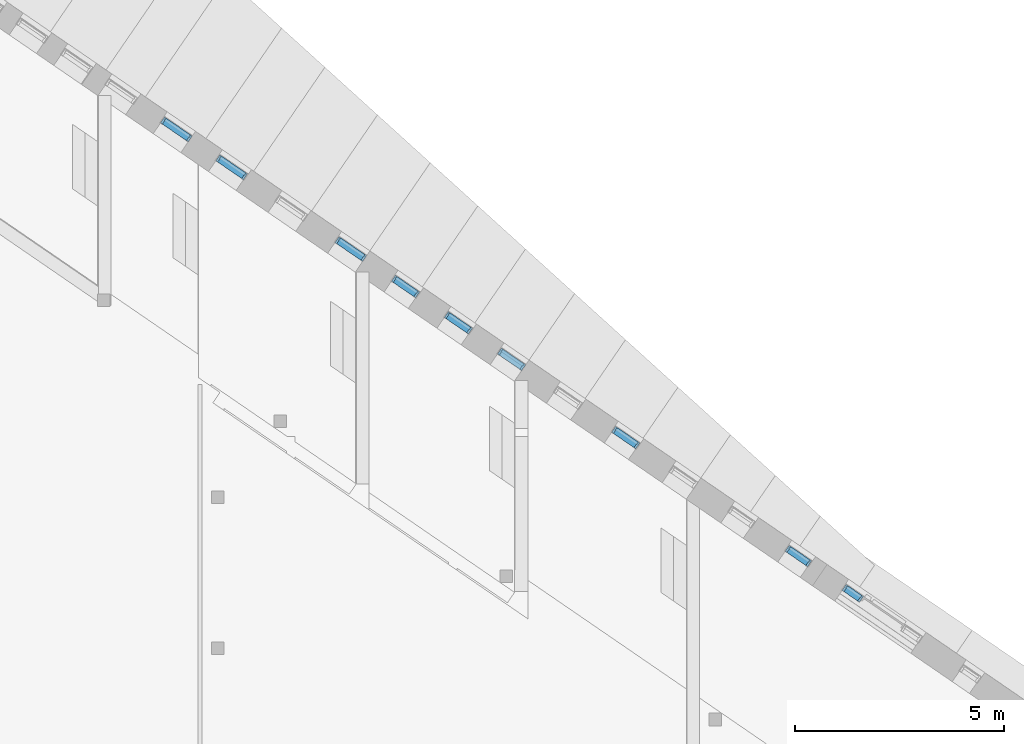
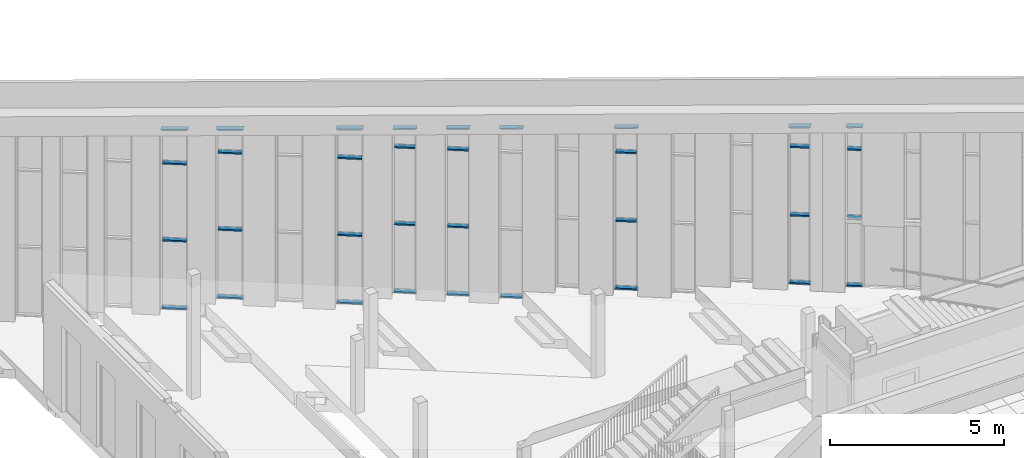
# One storey, part 20 of 79: 34 members, 9 elements without a shape of their own.
"""IFC2X3 building model written with IfcOpenShell, lengths in millimetres."""

from ifc_helpers import new_model, entity, si_unit, converted_unit, derived_unit, money_unit, direction, frame, origin_with_axes, place, context, subcontext, project, spatial, faceted_brep, source, transform, mapped, material, type_object, element, aggregate, save


model = new_model("IFC2X3")

# Units and contexts
model_context = context("Model", 3, precision=0.01, world=origin_with_axes(), true_north=direction((0.0, 1.0)))
body_context = subcontext(model_context, "Body", "Model", "MODEL_VIEW")
ifc_project = project(units=[si_unit("LENGTHUNIT", "METRE", prefix="MILLI"), si_unit("AREAUNIT", "SQUARE_METRE"), si_unit("VOLUMEUNIT", "CUBIC_METRE"), converted_unit("PLANEANGLEUNIT", "DEGREE", entity("IfcPlaneAngleMeasure", 0.0174532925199), si_unit("PLANEANGLEUNIT", "RADIAN"), dimensions=[0, 0, 0, 0, 0, 0, 0]), si_unit("SOLIDANGLEUNIT", "STERADIAN"), money_unit("EUR"), converted_unit("TIMEUNIT", "Year", entity("IfcTimeMeasure", 31556926.0), si_unit("TIMEUNIT", "SECOND"), dimensions=[0, 0, 1, 0, 0, 0, 0]), si_unit("MASSUNIT", "GRAM", prefix="KILO"), si_unit("THERMODYNAMICTEMPERATUREUNIT", "DEGREE_CELSIUS"), si_unit("LUMINOUSINTENSITYUNIT", "LUMEN"), si_unit("ENERGYUNIT", "JOULE", prefix="MEGA"), derived_unit("THERMALCONDUCTANCEUNIT", [(si_unit("POWERUNIT", "WATT"), 1), (si_unit("LENGTHUNIT", "METRE"), -1), (si_unit("THERMODYNAMICTEMPERATUREUNIT", "KELVIN"), -1)]), derived_unit("SPECIFICHEATCAPACITYUNIT", [(si_unit("ENERGYUNIT", "JOULE"), 1), (si_unit("MASSUNIT", "GRAM", prefix="KILO"), -1), (si_unit("THERMODYNAMICTEMPERATUREUNIT", "KELVIN"), -1)]), derived_unit("MASSDENSITYUNIT", [(si_unit("MASSUNIT", "GRAM", prefix="KILO"), 1), (si_unit("VOLUMEUNIT", "CUBIC_METRE"), -1)])], contexts=[model_context])

# Site, building, storey
site_placement = place(None, origin_with_axes())
site = spatial("IfcSite", under=ifc_project, at=site_placement, Name="L.Koidula tn 11b", CompositionType="ELEMENT")
building_placement = place(site_placement, origin_with_axes())
building = spatial("IfcBuilding", under=site, at=building_placement, Name="Rakvere Riigigümnaasium", CompositionType="ELEMENT")
storey_placement = place(building_placement, frame((0.0, 0.0, 3720.0), z_axis=(0.0, 0.0, 1.0), x_axis=(1.0, 0.0, 0.0)))
storey = spatial("IfcBuildingStorey", under=building, at=storey_placement, Name="2.korrus +3,72", CompositionType="ELEMENT", Elevation=3720.0)

# Curtain wall, members
curtain_wall_type = type_object("IfcCurtainWallType", Name="Curtain Wall Type", PredefinedType="NOTDEFINED")
curtain_wall_1_placement = place(storey_placement, frame((78143.5902424, 22881.4219802, 465.0), z_axis=(0.0, 0.0, 1.0), x_axis=(1.0, 0.0, 0.0)))
curtain_wall_1 = element("IfcCurtainWall", 1, at=curtain_wall_1_placement, inside=storey, type_object=curtain_wall_type, Name="KLF-06-06")
ifc_material = material(Name="Alumiiniumprofiil (RAL 7021)")
member_type_1 = type_object("IfcMemberType", Name="Transom Frame 50 x 170", PredefinedType="MULLION")
shared_shape_1 = source(origin_with_axes(), body_context, "Body", "Brep", [
    faceted_brep([(12.0, -26.0, 599.999961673), (12.0, 26.0, 599.999961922), (25.0, 26.0, 599.999961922), (25.0, 46.0, 599.999962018), (-25.0, 46.0, 599.999962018), (-25.0, 26.0, 599.999961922), (-12.0, 26.0, 599.999961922), (-12.0, -26.0, 599.999961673), (-25.0, -26.0, 599.999961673), (-25.0, -124.0, 599.999961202), (25.0, -124.0, 599.999961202), (25.0, -26.0, 599.999961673), (12.0, -26.0, 50.0), (12.0, 26.0, 50.0), (25.0, 26.0, 50.0), (25.0, 46.0, 50.0), (-25.0, 46.0, 50.0), (-25.0, 26.0, 50.0), (-12.0, 26.0, 50.0), (-12.0, -26.0, 50.0), (-25.0, -26.0, 50.0), (-25.0, -124.0, 50.0), (25.0, -124.0, 50.0), (25.0, -26.0, 50.0)], [[[0, 1, 2, 3, 4, 5, 6, 7, 8, 9, 10, 11]], [[0, 12, 13, 1]], [[1, 13, 14, 2]], [[14, 15, 3, 2]], [[4, 3, 15, 16]], [[17, 5, 4, 16]], [[5, 17, 18, 6]], [[7, 6, 18, 19]], [[8, 7, 19, 20]], [[8, 20, 21, 9]], [[10, 9, 21, 22]], [[11, 10, 22, 23]], [[11, 23, 12, 0]], [[13, 12, 23, 22, 21, 20, 19, 18, 17, 16, 15, 14]]]),
])
member_1_placement = place(curtain_wall_1_placement, frame((-268.01658635, 183.826429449, 4800.00006484), z_axis=(0.824666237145, -0.565619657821, 0.0), x_axis=(0.0, 0.0, 1.0)))
member_1 = element("IfcMember", 2, at=member_1_placement, type_object=member_type_1, material=ifc_material, Name="KLF-06-06-Profiilid", ObjectType="MULLION", context=body_context, shape_type="MappedRepresentation", body=[
    mapped(shared_shape_1, transform((0.0, 0.0, 0.0), x_axis=(-1.0, 0.0, 0.0), y_axis=(0.0, -1.0, 0.0), z_axis=(0.0, 0.0, 1.0))),
])
member_2_placement = place(curtain_wall_1_placement, frame((-268.01658635, 183.826429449, 2400.00006484), z_axis=(0.824666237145, -0.565619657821, 0.0), x_axis=(0.0, 0.0, 1.0)))
member_2 = element("IfcMember", 3, at=member_2_placement, type_object=member_type_1, material=ifc_material, Name="KLF-06-06-Profiilid", ObjectType="MULLION", context=body_context, shape_type="MappedRepresentation", body=[
    mapped(shared_shape_1, transform((0.0, 0.0, 0.0), x_axis=(-1.0, 0.0, 0.0), y_axis=(0.0, -1.0, 0.0), z_axis=(0.0, 0.0, 1.0))),
])

curtain_wall_2_placement = place(storey_placement, frame((68763.037451, 29315.3232528, -465.000107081), z_axis=(0.0, 0.0, 1.0), x_axis=(1.0, 0.0, 0.0)))
curtain_wall_2 = element("IfcCurtainWall", 4, at=curtain_wall_2_placement, inside=storey, type_object=curtain_wall_type, Name="KLF-06-13")
shared_shape_2 = source(origin_with_axes(), body_context, "Body", "Brep", [
    faceted_brep([(12.0, -26.0, 650.000041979), (12.0, 26.0, 650.000042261), (25.0, 26.0, 650.000042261), (25.0, 46.0, 650.00004237), (-25.0, 46.0, 650.00004237), (-25.0, 26.0, 650.000042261), (-12.0, 26.0, 650.000042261), (-12.0, -26.0, 650.000041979), (-25.0, -26.0, 650.000041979), (-25.0, -124.0, 650.000041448), (25.0, -124.0, 650.000041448), (25.0, -26.0, 650.000041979), (12.0, -26.0, 50.0), (12.0, 26.0, 50.0), (25.0, 26.0, 50.0), (25.0, 46.0, 50.0), (-25.0, 46.0, 50.0), (-25.0, 26.0, 50.0), (-12.0, 26.0, 50.0), (-12.0, -26.0, 50.0), (-25.0, -26.0, 50.0), (-25.0, -124.0, 50.0), (25.0, -124.0, 50.0), (25.0, -26.0, 50.0)], [[[0, 1, 2, 3, 4, 5, 6, 7, 8, 9, 10, 11]], [[0, 12, 13, 1]], [[1, 13, 14, 2]], [[14, 15, 3, 2]], [[4, 3, 15, 16]], [[17, 5, 4, 16]], [[5, 17, 18, 6]], [[7, 6, 18, 19]], [[8, 7, 19, 20]], [[8, 20, 21, 9]], [[10, 9, 21, 22]], [[11, 10, 22, 23]], [[11, 23, 12, 0]], [[13, 12, 23, 22, 21, 20, 19, 18, 17, 16, 15, 14]]]),
])
member_3_placement = place(curtain_wall_2_placement, frame((-288.633206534, 197.966896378, 5100.00017192), z_axis=(0.824666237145, -0.565619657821, 0.0), x_axis=(0.0, 0.0, 1.0)))
member_3 = element("IfcMember", 5, at=member_3_placement, type_object=member_type_1, material=ifc_material, Name="KLF-06-13-Profiilid", ObjectType="MULLION", context=body_context, shape_type="MappedRepresentation", body=[
    mapped(shared_shape_2, transform((0.0, 0.0, 0.0), x_axis=(-1.0, 0.0, 0.0), y_axis=(0.0, -1.0, 0.0), z_axis=(0.0, 0.0, 1.0))),
])
member_4_placement = place(curtain_wall_2_placement, frame((-288.633206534, 197.966896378, 2400.00017192), z_axis=(0.824666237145, -0.565619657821, 0.0), x_axis=(0.0, 0.0, 1.0)))
member_4 = element("IfcMember", 6, at=member_4_placement, type_object=member_type_1, material=ifc_material, Name="KLF-06-13-Profiilid", ObjectType="MULLION", context=body_context, shape_type="MappedRepresentation", body=[
    mapped(shared_shape_2, transform((0.0, 0.0, 0.0), x_axis=(-1.0, 0.0, 0.0), y_axis=(0.0, -1.0, 0.0), z_axis=(0.0, 0.0, 1.0))),
])

curtain_wall_3_placement = place(storey_placement, frame((70025.1098687, 28449.7063598, -465.0), z_axis=(0.0, 0.0, 1.0), x_axis=(1.0, 0.0, 0.0)))
curtain_wall_3 = element("IfcCurtainWall", 7, at=curtain_wall_3_placement, inside=storey, type_object=curtain_wall_type, Name="KLF-06-12")
member_5_placement = place(curtain_wall_3_placement, frame((-288.63312114, 197.966837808, 5100.00006484), z_axis=(0.824666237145, -0.565619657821, 0.0), x_axis=(0.0, 0.0, 1.0)))
member_5 = element("IfcMember", 8, at=member_5_placement, type_object=member_type_1, material=ifc_material, Name="KLF-06-12-Profiilid", ObjectType="MULLION", context=body_context, shape_type="MappedRepresentation", body=[
    mapped(shared_shape_2, transform((0.0, 0.0, 0.0), x_axis=(-1.0, 0.0, 0.0), y_axis=(0.0, -1.0, 0.0), z_axis=(0.0, 0.0, 1.0))),
])
member_6_placement = place(curtain_wall_3_placement, frame((-288.633193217, 197.966887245, 2400.00006484), z_axis=(0.824666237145, -0.565619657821, 0.0), x_axis=(0.0, 0.0, 1.0)))
member_6 = element("IfcMember", 9, at=member_6_placement, type_object=member_type_1, material=ifc_material, Name="KLF-06-12-Profiilid", ObjectType="MULLION", context=body_context, shape_type="MappedRepresentation", body=[
    mapped(shared_shape_2, transform((0.0, 0.0, 0.0), x_axis=(-1.0, 0.0, 0.0), y_axis=(0.0, -1.0, 0.0), z_axis=(0.0, 0.0, 1.0))),
])

curtain_wall_4_placement = place(storey_placement, frame((74020.6159263, 25709.2765329, 0.0), z_axis=(0.0, 0.0, 1.0), x_axis=(1.0, 0.0, 0.0)))
curtain_wall_4 = element("IfcCurtainWall", 10, at=curtain_wall_4_placement, inside=storey, type_object=curtain_wall_type, Name="KLF-06-09")
member_7_placement = place(curtain_wall_4_placement, frame((-288.633100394, 197.966823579, 4800.00006484), z_axis=(0.824666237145, -0.565619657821, 0.0), x_axis=(0.0, 0.0, 1.0)))
member_7 = element("IfcMember", 11, at=member_7_placement, type_object=member_type_1, material=ifc_material, Name="KLF-06-09-Profiilid", ObjectType="MULLION", context=body_context, shape_type="MappedRepresentation", body=[
    mapped(shared_shape_2, transform((0.0, 0.0, 0.0), x_axis=(-1.0, 0.0, 0.0), y_axis=(0.0, -1.0, 0.0), z_axis=(0.0, 0.0, 1.0))),
])
member_8_placement = place(curtain_wall_4_placement, frame((-288.633100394, 197.966823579, 2400.00006484), z_axis=(0.824666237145, -0.565619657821, 0.0), x_axis=(0.0, 0.0, 1.0)))
member_8 = element("IfcMember", 12, at=member_8_placement, type_object=member_type_1, material=ifc_material, Name="KLF-06-09-Profiilid", ObjectType="MULLION", context=body_context, shape_type="MappedRepresentation", body=[
    mapped(shared_shape_2, transform((0.0, 0.0, 0.0), x_axis=(-1.0, 0.0, 0.0), y_axis=(0.0, -1.0, 0.0), z_axis=(0.0, 0.0, 1.0))),
])

# Member
member_type_2 = type_object("IfcMemberType", Name="Boundary Frame 50 x 170", PredefinedType="MULLION")
shared_shape_3 = source(origin_with_axes(), body_context, "Body", "Brep", [
    faceted_brep([(-37.0, -26.0, 612.999970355), (-50.0, -26.0, 599.999970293), (-50.0, -124.0, 599.999970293), (0.0, -124.0, 649.999970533), (0.0, 46.0, 649.999970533), (-50.0, 46.0, 599.999970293), (-50.0, 26.0, 599.999970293), (-37.0, 26.0, 612.999970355), (-37.0, -26.0, 37.0), (-50.0, -26.0, 50.0), (-50.0, -124.0, 50.0), (0.0, -124.0, 0.0), (0.0, 46.0, 0.0), (-50.0, 46.0, 50.0), (-50.0, 26.0, 50.0), (-37.0, 26.0, 37.0)], [[[0, 1, 2, 3, 4, 5, 6, 7]], [[0, 8, 9, 1]], [[9, 10, 2, 1]], [[2, 10, 11, 3]], [[3, 11, 12, 4]], [[4, 12, 13, 5]], [[6, 5, 13, 14]], [[14, 15, 7, 6]], [[7, 15, 8, 0]], [[8, 15, 14, 13, 12, 11, 10, 9]]]),
])
member_9_placement = place(curtain_wall_1_placement, frame((-268.016653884, 183.826475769, 0.0), z_axis=(0.824666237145, -0.565619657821, 0.0), x_axis=(0.0, 0.0, 1.0)))
member_9 = element("IfcMember", 13, at=member_9_placement, type_object=member_type_2, material=ifc_material, Name="KLF-06-15-Profiilid", ObjectType="MULLION", context=body_context, shape_type="MappedRepresentation", body=[
    mapped(shared_shape_3, transform((0.0, 0.0, 0.0), x_axis=(-1.0, 0.0, 0.0), y_axis=(0.0, -1.0, 0.0), z_axis=(0.0, 0.0, 1.0))),
])

# Curtain wall, members
curtain_wall_5_placement = place(storey_placement, frame((63291.7064528, 33067.985779, -1395.00012232), z_axis=(0.0, 0.0, 1.0), x_axis=(1.0, 0.0, 0.0)))
curtain_wall_5 = element("IfcCurtainWall", 14, at=curtain_wall_5_placement, inside=storey, type_object=curtain_wall_type, Name="KLF-06-17")
shared_shape_4 = source(origin_with_axes(), body_context, "Body", "Brep", [
    faceted_brep([(12.0, -26.0, 750.000123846), (12.0, 26.0, 750.000123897), (25.0, 26.0, 750.000123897), (25.0, 46.0, 750.000123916), (-25.0, 46.0, 750.000123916), (-25.0, 26.0, 750.000123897), (-12.0, 26.0, 750.000123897), (-12.0, -26.0, 750.000123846), (-25.0, -26.0, 750.000123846), (-25.0, -124.0, 750.000123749), (25.0, -124.0, 750.000123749), (25.0, -26.0, 750.000123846), (12.0, -26.0, 50.0), (12.0, 26.0, 50.0), (25.0, 26.0, 50.0), (25.0, 46.0, 50.0), (-25.0, 46.0, 50.0), (-25.0, 26.0, 50.0), (-12.0, 26.0, 50.0), (-12.0, -26.0, 50.0), (-25.0, -26.0, 50.0), (-25.0, -124.0, 50.0), (25.0, -124.0, 50.0), (25.0, -26.0, 50.0)], [[[0, 1, 2, 3, 4, 5, 6, 7, 8, 9, 10, 11]], [[0, 12, 13, 1]], [[1, 13, 14, 2]], [[14, 15, 3, 2]], [[4, 3, 15, 16]], [[17, 5, 4, 16]], [[5, 17, 18, 6]], [[7, 6, 18, 19]], [[8, 7, 19, 20]], [[8, 20, 21, 9]], [[10, 9, 21, 22]], [[11, 10, 22, 23]], [[11, 23, 12, 0]], [[13, 12, 23, 22, 21, 20, 19, 18, 17, 16, 15, 14]]]),
])
member_10_placement = place(curtain_wall_5_placement, frame((-329.866454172, 226.247835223, 5100.00020418), z_axis=(0.824666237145, -0.565619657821, 0.0), x_axis=(0.0, 0.0, 1.0)))
member_10 = element("IfcMember", 15, at=member_10_placement, type_object=member_type_1, material=ifc_material, Name="KLF-06-17-Profiilid", ObjectType="MULLION", context=body_context, shape_type="MappedRepresentation", body=[
    mapped(shared_shape_4, transform((0.0, 0.0, 0.0), x_axis=(-1.0, 0.0, 0.0), y_axis=(0.0, -1.0, 0.0), z_axis=(0.0, 0.0, 1.0))),
])
member_11_placement = place(curtain_wall_5_placement, frame((-329.866454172, 226.247835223, 2400.00020418), z_axis=(0.824666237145, -0.565619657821, 0.0), x_axis=(0.0, 0.0, 1.0)))
member_11 = element("IfcMember", 16, at=member_11_placement, type_object=member_type_1, material=ifc_material, Name="KLF-06-17-Profiilid", ObjectType="MULLION", context=body_context, shape_type="MappedRepresentation", body=[
    mapped(shared_shape_4, transform((0.0, 0.0, 0.0), x_axis=(-1.0, 0.0, 0.0), y_axis=(0.0, -1.0, 0.0), z_axis=(0.0, 0.0, 1.0))),
])

curtain_wall_6_placement = place(storey_placement, frame((64611.1746594, 32162.9974944, -930.000096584), z_axis=(0.0, 0.0, 1.0), x_axis=(1.0, 0.0, 0.0)))
curtain_wall_6 = element("IfcCurtainWall", 17, at=curtain_wall_6_placement, inside=storey, type_object=curtain_wall_type, Name="KLF-06-16")
member_12_placement = place(curtain_wall_6_placement, frame((-329.866531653, 226.247888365, 5100.00012171), z_axis=(0.824666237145, -0.565619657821, 0.0), x_axis=(0.0, 0.0, 1.0)))
member_12 = element("IfcMember", 18, at=member_12_placement, type_object=member_type_1, material=ifc_material, Name="KLF-06-16-Profiilid", ObjectType="MULLION", context=body_context, shape_type="MappedRepresentation", body=[
    mapped(shared_shape_4, transform((0.0, 0.0, 0.0), x_axis=(-1.0, 0.0, 0.0), y_axis=(0.0, -1.0, 0.0), z_axis=(0.0, 0.0, 1.0))),
])
member_13_placement = place(curtain_wall_6_placement, frame((-329.866531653, 226.247888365, 2400.00012171), z_axis=(0.824666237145, -0.565619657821, 0.0), x_axis=(0.0, 0.0, 1.0)))
member_13 = element("IfcMember", 19, at=member_13_placement, type_object=member_type_1, material=ifc_material, Name="KLF-06-16-Profiilid", ObjectType="MULLION", context=body_context, shape_type="MappedRepresentation", body=[
    mapped(shared_shape_4, transform((0.0, 0.0, 0.0), x_axis=(-1.0, 0.0, 0.0), y_axis=(0.0, -1.0, 0.0), z_axis=(0.0, 0.0, 1.0))),
])

curtain_wall_7_placement = place(storey_placement, frame((67456.273164, 30211.6096842, -929.999974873), z_axis=(0.0, 0.0, 1.0), x_axis=(1.0, 0.0, 0.0)))
curtain_wall_7 = element("IfcCurtainWall", 20, at=curtain_wall_7_placement, inside=storey, type_object=curtain_wall_type, Name="KLF-06-14")
member_14_placement = place(curtain_wall_7_placement, frame((-329.866464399, 226.247842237, 5100.00006484), z_axis=(0.824666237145, -0.565619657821, 0.0), x_axis=(0.0, 0.0, 1.0)))
member_14 = element("IfcMember", 21, at=member_14_placement, type_object=member_type_1, material=ifc_material, Name="KLF-06-14-Profiilid", ObjectType="MULLION", context=body_context, shape_type="MappedRepresentation", body=[
    mapped(shared_shape_4, transform((0.0, 0.0, 0.0), x_axis=(-1.0, 0.0, 0.0), y_axis=(0.0, -1.0, 0.0), z_axis=(0.0, 0.0, 1.0))),
])
member_15_placement = place(curtain_wall_7_placement, frame((-329.866464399, 226.247842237, 2400.00006484), z_axis=(0.824666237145, -0.565619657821, 0.0), x_axis=(0.0, 0.0, 1.0)))
member_15 = element("IfcMember", 22, at=member_15_placement, type_object=member_type_1, material=ifc_material, Name="KLF-06-14-Profiilid", ObjectType="MULLION", context=body_context, shape_type="MappedRepresentation", body=[
    mapped(shared_shape_4, transform((0.0, 0.0, 0.0), x_axis=(-1.0, 0.0, 0.0), y_axis=(0.0, -1.0, 0.0), z_axis=(0.0, 0.0, 1.0))),
])

curtain_wall_8_placement = place(storey_placement, frame((79442.2672738, 21990.3699919, 464.999974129), z_axis=(0.0, 0.0, 1.0), x_axis=(1.0, 0.0, 0.0)))
curtain_wall_8 = element("IfcCurtainWall", 23, at=curtain_wall_8_placement, inside=storey, type_object=curtain_wall_type, Name="KLF-06-05")
shared_shape_5 = source(origin_with_axes(), body_context, "Body", "Brep", [
    faceted_brep([(12.0, -26.0, 449.999826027), (12.0, 26.0, 449.999829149), (25.0, 26.0, 449.999829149), (25.0, 46.0, 449.999830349), (-25.0, 46.0, 449.999830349), (-25.0, 26.0, 449.999829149), (-12.0, 26.0, 449.999829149), (-12.0, -26.0, 449.999826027), (-25.0, -26.0, 449.999826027), (-25.0, -124.0, 449.999820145), (25.0, -124.0, 449.999820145), (25.0, -26.0, 449.999826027), (12.0, -26.0, 50.0000065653), (12.0, 26.0, 49.9999934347), (25.0, 26.0, 49.9999934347), (25.0, 46.0, 49.9999883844), (-25.0, 46.0, 49.9999883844), (-25.0, 26.0, 49.9999934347), (-12.0, 26.0, 49.9999934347), (-12.0, -26.0, 50.0000065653), (-25.0, -26.0, 50.0000065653), (-25.0, -124.0, 50.0000313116), (25.0, -124.0, 50.0000313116), (25.0, -26.0, 50.0000065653)], [[[0, 1, 2, 3, 4, 5, 6, 7, 8, 9, 10, 11]], [[0, 12, 13, 1]], [[1, 13, 14, 2]], [[14, 15, 3, 2]], [[4, 3, 15, 16]], [[17, 5, 4, 16]], [[5, 17, 18, 6]], [[7, 6, 18, 19]], [[8, 7, 19, 20]], [[8, 20, 21, 9]], [[10, 9, 21, 22]], [[11, 10, 22, 23]], [[11, 23, 12, 0]], [[13, 12, 23, 22, 21, 20, 19, 18, 17, 16, 15, 14]]]),
])
member_16_placement = place(curtain_wall_8_placement, frame((-206.166423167, 141.404821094, 4800.00009071), z_axis=(0.824666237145, -0.565619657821, 0.0), x_axis=(0.0, 0.0, 1.0)))
member_16 = element("IfcMember", 24, at=member_16_placement, type_object=member_type_1, material=ifc_material, Name="KLF-06-05-Profiilid", ObjectType="MULLION", context=body_context, shape_type="MappedRepresentation", body=[
    mapped(shared_shape_5, transform((0.0, 0.0, 0.0), x_axis=(-1.0, 0.0, 0.0), y_axis=(0.0, -1.0, 0.0), z_axis=(0.0, 0.0, 1.0))),
])
member_17_placement = place(curtain_wall_8_placement, frame((-206.166423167, 141.404821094, 2400.00009071), z_axis=(0.824666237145, -0.565619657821, 0.0), x_axis=(0.0, 0.0, 1.0)))
member_17 = element("IfcMember", 25, at=member_17_placement, type_object=member_type_1, material=ifc_material, Name="KLF-06-05-Profiilid", ObjectType="MULLION", context=body_context, shape_type="MappedRepresentation", body=[
    mapped(shared_shape_5, transform((0.0, 0.0, 0.0), x_axis=(-1.0, 0.0, 0.0), y_axis=(0.0, -1.0, 0.0), z_axis=(0.0, 0.0, 1.0))),
])

# Member
shared_shape_6 = source(origin_with_axes(), body_context, "Body", "Brep", [
    faceted_brep([(-37.0, -26.0, 663.000011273), (-50.0, -26.0, 650.000011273), (-50.0, -124.0, 650.000011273), (0.0, -124.0, 700.000011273), (0.0, 46.0, 700.000011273), (-50.0, 46.0, 650.000011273), (-50.0, 26.0, 650.000011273), (-37.0, 26.0, 663.000011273), (-37.0, -26.0, 37.0000013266), (-50.0, -26.0, 50.0000017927), (-50.0, -124.0, 50.0000017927), (0.0, -124.0, 0.0), (0.0, 46.0, 0.0), (-50.0, 46.0, 50.0000017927), (-50.0, 26.0, 50.0000017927), (-37.0, 26.0, 37.0000013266)], [[[0, 1, 2, 3, 4, 5, 6, 7]], [[0, 8, 9, 1]], [[9, 10, 2, 1]], [[2, 10, 11, 3]], [[3, 11, 12, 4]], [[4, 12, 13, 5]], [[6, 5, 13, 14]], [[14, 15, 7, 6]], [[7, 15, 8, 0]], [[8, 15, 14, 13, 12, 11, 10, 9]]]),
])
member_18_placement = place(curtain_wall_2_placement, frame((-288.633277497, 197.96694505, 0.0), z_axis=(0.824666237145, -0.565619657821, 0.0), x_axis=(0.0, 0.0, 1.0)))
member_18 = element("IfcMember", 26, at=member_18_placement, type_object=member_type_2, material=ifc_material, Name="KLF-06-30-Profiilid", ObjectType="MULLION", context=body_context, shape_type="MappedRepresentation", body=[
    mapped(shared_shape_6, transform((0.0, 0.0, 0.0), x_axis=(-1.0, 0.0, 0.0), y_axis=(0.0, -1.0, 0.0), z_axis=(0.0, 0.0, 1.0))),
])

member_19_placement = place(curtain_wall_3_placement, frame((-288.633265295, 197.966936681, 0.0), z_axis=(0.824666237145, -0.565619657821, 0.0), x_axis=(0.0, 0.0, 1.0)))
member_19 = element("IfcMember", 27, at=member_19_placement, type_object=member_type_2, material=ifc_material, Name="KLF-06-46-Profiilid", ObjectType="MULLION", context=body_context, shape_type="MappedRepresentation", body=[
    mapped(shared_shape_6, transform((0.0, 0.0, 0.0), x_axis=(-1.0, 0.0, 0.0), y_axis=(0.0, -1.0, 0.0), z_axis=(0.0, 0.0, 1.0))),
])

# Curtain wall, member
curtain_wall_9_placement = place(storey_placement, frame((71295.0958138, 27578.652128, -465.0), z_axis=(0.0, 0.0, 1.0), x_axis=(1.0, 0.0, 0.0)))
curtain_wall_9 = element("IfcCurtainWall", 28, at=curtain_wall_9_placement, inside=storey, type_object=curtain_wall_type, Name="KLF-06-11")
member_20_placement = place(curtain_wall_9_placement, frame((-288.63318076, 197.9668787, 0.0), z_axis=(0.824666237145, -0.565619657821, 0.0), x_axis=(0.0, 0.0, 1.0)))
member_20 = element("IfcMember", 29, at=member_20_placement, type_object=member_type_2, material=ifc_material, Name="KLF-06-36-Profiilid", ObjectType="MULLION", context=body_context, shape_type="MappedRepresentation", body=[
    mapped(shared_shape_6, transform((0.0, 0.0, 0.0), x_axis=(-1.0, 0.0, 0.0), y_axis=(0.0, -1.0, 0.0), z_axis=(0.0, 0.0, 1.0))),
])

# Member
member_21_placement = place(curtain_wall_4_placement, frame((-288.633170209, 197.966871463, 0.0), z_axis=(0.824666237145, -0.565619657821, 0.0), x_axis=(0.0, 0.0, 1.0)))
member_21 = element("IfcMember", 30, at=member_21_placement, type_object=member_type_2, material=ifc_material, Name="KLF-06-18-Profiilid", ObjectType="MULLION", context=body_context, shape_type="MappedRepresentation", body=[
    mapped(shared_shape_6, transform((0.0, 0.0, 0.0), x_axis=(-1.0, 0.0, 0.0), y_axis=(0.0, -1.0, 0.0), z_axis=(0.0, 0.0, 1.0))),
])

shared_shape_7 = source(origin_with_axes(), body_context, "Body", "Brep", [
    faceted_brep([(-37.0, -26.0, 763.000114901), (-50.0, -26.0, 750.000115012), (-50.0, -124.0, 750.000115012), (0.0, -124.0, 800.000114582), (0.0, 46.0, 800.000114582), (-50.0, 46.0, 750.000115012), (-50.0, 26.0, 750.000115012), (-37.0, 26.0, 763.000114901), (-37.0, -26.0, 37.0), (-50.0, -26.0, 50.0), (-50.0, -124.0, 50.0), (0.0, -124.0, 0.0), (0.0, 46.0, 0.0), (-50.0, 46.0, 50.0), (-50.0, 26.0, 50.0), (-37.0, 26.0, 37.0)], [[[0, 1, 2, 3, 4, 5, 6, 7]], [[0, 8, 9, 1]], [[9, 10, 2, 1]], [[2, 10, 11, 3]], [[3, 11, 12, 4]], [[4, 12, 13, 5]], [[6, 5, 13, 14]], [[14, 15, 7, 6]], [[7, 15, 8, 0]], [[8, 15, 14, 13, 12, 11, 10, 9]]]),
])
member_22_placement = place(curtain_wall_5_placement, frame((-329.866454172, 226.247835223, 0.0), z_axis=(0.824666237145, -0.565619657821, 0.0), x_axis=(0.0, 0.0, 1.0)))
member_22 = element("IfcMember", 31, at=member_22_placement, type_object=member_type_2, material=ifc_material, Name="KLF-06-34-Profiilid", ObjectType="MULLION", context=body_context, shape_type="MappedRepresentation", body=[
    mapped(shared_shape_7, transform((0.0, 0.0, 0.0), x_axis=(-1.0, 0.0, 0.0), y_axis=(0.0, -1.0, 0.0), z_axis=(0.0, 0.0, 1.0))),
])

member_23_placement = place(curtain_wall_6_placement, frame((-329.866531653, 226.247888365, 0.0), z_axis=(0.824666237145, -0.565619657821, 0.0), x_axis=(0.0, 0.0, 1.0)))
member_23 = element("IfcMember", 32, at=member_23_placement, type_object=member_type_2, material=ifc_material, Name="KLF-06-33-Profiilid", ObjectType="MULLION", context=body_context, shape_type="MappedRepresentation", body=[
    mapped(shared_shape_7, transform((0.0, 0.0, 0.0), x_axis=(-1.0, 0.0, 0.0), y_axis=(0.0, -1.0, 0.0), z_axis=(0.0, 0.0, 1.0))),
])

member_24_placement = place(curtain_wall_7_placement, frame((-329.866464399, 226.247842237, 0.0), z_axis=(0.824666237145, -0.565619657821, 0.0), x_axis=(0.0, 0.0, 1.0)))
member_24 = element("IfcMember", 33, at=member_24_placement, type_object=member_type_2, material=ifc_material, Name="KLF-06-40-Profiilid", ObjectType="MULLION", context=body_context, shape_type="MappedRepresentation", body=[
    mapped(shared_shape_7, transform((0.0, 0.0, 0.0), x_axis=(-1.0, 0.0, 0.0), y_axis=(0.0, -1.0, 0.0), z_axis=(0.0, 0.0, 1.0))),
])

shared_shape_8 = source(origin_with_axes(), body_context, "Body", "Brep", [
    faceted_brep([(-37.0, -26.0, 666.369227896), (-50.0, -26.0, 654.118960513), (-50.0, -124.0, 654.118960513), (0.0, -124.0, 701.235373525), (0.0, 46.0, 701.235373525), (-50.0, 46.0, 654.118960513), (-50.0, 26.0, 654.118960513), (-37.0, 26.0, 666.369227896), (-37.0, -26.0, 39.2644477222), (-50.0, -26.0, 53.0600644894), (-50.0, -124.0, 53.0600644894), (0.0, -124.0, 0.0), (0.0, 46.0, 0.0), (-50.0, 46.0, 53.0600644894), (-50.0, 26.0, 53.0600644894), (-37.0, 26.0, 39.2644477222)], [[[0, 1, 2, 3, 4, 5, 6, 7]], [[0, 8, 9, 1]], [[9, 10, 2, 1]], [[2, 10, 11, 3]], [[3, 11, 12, 4]], [[4, 12, 13, 5]], [[6, 5, 13, 14]], [[14, 15, 7, 6]], [[7, 15, 8, 0]], [[8, 15, 14, 13, 12, 11, 10, 9]]]),
])
member_25_placement = place(curtain_wall_2_placement, frame((288.633197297, -197.966890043, 5792.45374787), z_axis=(-0.823213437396, 0.564623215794, -0.0593317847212), x_axis=(0.0489289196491, -0.0335592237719, -0.998238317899)))
member_25 = element("IfcMember", 34, at=member_25_placement, type_object=member_type_2, material=ifc_material, Name="KLF-06-34-Profiilid", ObjectType="MULLION", context=body_context, shape_type="MappedRepresentation", body=[
    mapped(shared_shape_8, transform((0.0, 0.0, 0.0), x_axis=(-1.0, 0.0, 0.0), y_axis=(0.0, -1.0, 0.0), z_axis=(0.0, 0.0, 1.0))),
])

aggregate(curtain_wall_2, [member_3, member_4, member_18, member_25])

member_26_placement = place(curtain_wall_3_placement, frame((288.633134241, -197.966846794, 5883.4150748), z_axis=(-0.823213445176, 0.56462322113, -0.0593316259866), x_axis=(0.048928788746, -0.0335591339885, -0.998238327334)))
member_26 = element("IfcMember", 35, at=member_26_placement, type_object=member_type_2, material=ifc_material, Name="KLF-06-50-Profiilid", ObjectType="MULLION", context=body_context, shape_type="MappedRepresentation", body=[
    mapped(shared_shape_8, transform((0.0, 0.0, 0.0), x_axis=(-1.0, 0.0, 0.0), y_axis=(0.0, -1.0, 0.0), z_axis=(0.0, 0.0, 1.0))),
])

aggregate(curtain_wall_3, [member_5, member_6, member_19, member_26])

member_27_placement = place(curtain_wall_9_placement, frame((288.633097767, -197.966821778, 5974.94737027), z_axis=(-0.823213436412, 0.564623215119, -0.0593318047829), x_axis=(0.0489289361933, -0.0335592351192, -0.998238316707)))
member_27 = element("IfcMember", 36, at=member_27_placement, type_object=member_type_2, material=ifc_material, Name="KLF-06-40-Profiilid", ObjectType="MULLION", context=body_context, shape_type="MappedRepresentation", body=[
    mapped(shared_shape_8, transform((0.0, 0.0, 0.0), x_axis=(-1.0, 0.0, 0.0), y_axis=(0.0, -1.0, 0.0), z_axis=(0.0, 0.0, 1.0))),
])

aggregate(curtain_wall_9, [member_20, member_27])

member_28_placement = place(curtain_wall_4_placement, frame((288.63308418, -197.966812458, 5706.38504872), z_axis=(-0.823213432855, 0.564623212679, -0.0593318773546), x_axis=(0.0489289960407, -0.0335592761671, -0.998238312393)))
member_28 = element("IfcMember", 37, at=member_28_placement, type_object=member_type_2, material=ifc_material, Name="KLF-06-22-Profiilid", ObjectType="MULLION", context=body_context, shape_type="MappedRepresentation", body=[
    mapped(shared_shape_8, transform((0.0, 0.0, 0.0), x_axis=(-1.0, 0.0, 0.0), y_axis=(0.0, -1.0, 0.0), z_axis=(0.0, 0.0, 1.0))),
])

aggregate(curtain_wall_4, [member_7, member_8, member_21, member_28])

shared_shape_9 = source(origin_with_axes(), body_context, "Body", "Brep", [
    faceted_brep([(-37.0, -26.0, 462.99968442), (-50.0, -26.0, 449.999684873), (-50.0, -124.0, 449.999684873), (0.0, -124.0, 499.999683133), (0.0, 46.0, 499.999683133), (-50.0, 46.0, 449.999684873), (-50.0, 26.0, 449.999684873), (-37.0, 26.0, 462.99968442), (-37.0, -26.0, 37.0000012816), (-50.0, -26.0, 50.0000017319), (-50.0, -124.0, 50.0000017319), (0.0, -124.0, 0.0), (0.0, 46.0, 0.0), (-50.0, 46.0, 50.0000017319), (-50.0, 26.0, 50.0000017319), (-37.0, 26.0, 37.0000012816)], [[[0, 1, 2, 3, 4, 5, 6, 7]], [[0, 8, 9, 1]], [[9, 10, 2, 1]], [[2, 10, 11, 3]], [[3, 11, 12, 4]], [[4, 12, 13, 5]], [[6, 5, 13, 14]], [[14, 15, 7, 6]], [[7, 15, 8, 0]], [[8, 15, 14, 13, 12, 11, 10, 9]]]),
])
member_29_placement = place(curtain_wall_8_placement, frame((-206.166491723, 141.404868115, 0.0), z_axis=(0.824666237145, -0.565619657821, 0.0), x_axis=(0.0, 0.0, 1.0)))
member_29 = element("IfcMember", 38, at=member_29_placement, type_object=member_type_2, material=ifc_material, Name="KLF-06-14-Profiilid", ObjectType="MULLION", context=body_context, shape_type="MappedRepresentation", body=[
    mapped(shared_shape_9, transform((0.0, 0.0, 0.0), x_axis=(-1.0, 0.0, 0.0), y_axis=(0.0, -1.0, 0.0), z_axis=(0.0, 0.0, 1.0))),
])

shared_shape_10 = source(origin_with_axes(), body_context, "Body", "Brep", [
    faceted_brep([(-37.0, -26.0, 466.016149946), (-50.0, -26.0, 453.765878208), (-50.0, -124.0, 453.765878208), (0.0, -124.0, 500.882307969), (0.0, 46.0, 500.882307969), (-50.0, 46.0, 453.765878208), (-50.0, 26.0, 453.765878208), (-37.0, 26.0, 466.016149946), (-37.0, -26.0, 39.2644396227), (-50.0, -26.0, 53.0600535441), (-50.0, -124.0, 53.0600535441), (0.0, -124.0, 0.0), (0.0, 46.0, 0.0), (-50.0, 46.0, 53.0600535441), (-50.0, 26.0, 53.0600535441), (-37.0, 26.0, 39.2644396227)], [[[0, 1, 2, 3, 4, 5, 6, 7]], [[0, 8, 9, 1]], [[9, 10, 2, 1]], [[2, 10, 11, 3]], [[3, 11, 12, 4]], [[4, 12, 13, 5]], [[6, 5, 13, 14]], [[14, 15, 7, 6]], [[7, 15, 8, 0]], [[8, 15, 14, 13, 12, 11, 10, 9]]]),
])
member_30_placement = place(curtain_wall_8_placement, frame((206.166458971, -141.404845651, 5626.20898966), z_axis=(-0.823213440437, 0.56462321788, -0.0593317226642), x_axis=(0.0489288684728, -0.0335591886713, -0.998238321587)))
member_30 = element("IfcMember", 39, at=member_30_placement, type_object=member_type_2, material=ifc_material, Name="KLF-06-18-Profiilid", ObjectType="MULLION", context=body_context, shape_type="MappedRepresentation", body=[
    mapped(shared_shape_10, transform((0.0, 0.0, 0.0), x_axis=(-1.0, 0.0, 0.0), y_axis=(0.0, -1.0, 0.0), z_axis=(0.0, 0.0, 1.0))),
])

aggregate(curtain_wall_8, [member_16, member_17, member_29, member_30])

shared_shape_11 = source(origin_with_axes(), body_context, "Body", "Brep", [
    faceted_brep([(-37.0, -26.0, 766.545635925), (-50.0, -26.0, 754.295366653), (-50.0, -124.0, 754.295366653), (0.0, -124.0, 801.41178693), (0.0, 46.0, 801.41178693), (-50.0, 46.0, 754.295366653), (-50.0, 26.0, 754.295366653), (-37.0, 26.0, 766.545635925), (-37.0, -26.0, 39.2644441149), (-50.0, -26.0, 53.0600596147), (-50.0, -124.0, 53.0600596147), (0.0, -124.0, 0.0), (0.0, 46.0, 0.0), (-50.0, 46.0, 53.0600596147), (-50.0, 26.0, 53.0600596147), (-37.0, 26.0, 39.2644441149)], [[[0, 1, 2, 3, 4, 5, 6, 7]], [[0, 8, 9, 1]], [[9, 10, 2, 1]], [[2, 10, 11, 3]], [[3, 11, 12, 4]], [[4, 12, 13, 5]], [[6, 5, 13, 14]], [[14, 15, 7, 6]], [[7, 15, 8, 0]], [[8, 15, 14, 13, 12, 11, 10, 9]]]),
])
member_31_placement = place(curtain_wall_5_placement, frame((329.86646743, -226.247844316, 6331.08803502), z_axis=(-0.823213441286, 0.564623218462, -0.0593317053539), x_axis=(0.0489288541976, -0.0335591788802, -0.998238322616)))
member_31 = element("IfcMember", 40, at=member_31_placement, type_object=member_type_2, material=ifc_material, Name="KLF-06-38-Profiilid", ObjectType="MULLION", context=body_context, shape_type="MappedRepresentation", body=[
    mapped(shared_shape_11, transform((0.0, 0.0, 0.0), x_axis=(-1.0, 0.0, 0.0), y_axis=(0.0, -1.0, 0.0), z_axis=(0.0, 0.0, 1.0))),
])

aggregate(curtain_wall_5, [member_10, member_11, member_22, member_31])

member_32_placement = place(curtain_wall_6_placement, frame((329.866522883, -226.24788235, 5961.18653588), z_axis=(-0.823213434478, 0.564623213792, -0.0593318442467), x_axis=(0.0489289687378, -0.0335592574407, -0.998238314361)))
member_32 = element("IfcMember", 41, at=member_32_placement, type_object=member_type_2, material=ifc_material, Name="KLF-06-37-Profiilid", ObjectType="MULLION", context=body_context, shape_type="MappedRepresentation", body=[
    mapped(shared_shape_11, transform((0.0, 0.0, 0.0), x_axis=(-1.0, 0.0, 0.0), y_axis=(0.0, -1.0, 0.0), z_axis=(0.0, 0.0, 1.0))),
])

aggregate(curtain_wall_6, [member_12, member_13, member_23, member_32])

member_33_placement = place(curtain_wall_7_placement, frame((329.86647408, -226.247848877, 6166.24231213), z_axis=(-0.823213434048, 0.564623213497, -0.0593318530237), x_axis=(0.0489289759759, -0.0335592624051, -0.998238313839)))
member_33 = element("IfcMember", 42, at=member_33_placement, type_object=member_type_2, material=ifc_material, Name="KLF-06-44-Profiilid", ObjectType="MULLION", context=body_context, shape_type="MappedRepresentation", body=[
    mapped(shared_shape_11, transform((0.0, 0.0, 0.0), x_axis=(-1.0, 0.0, 0.0), y_axis=(0.0, -1.0, 0.0), z_axis=(0.0, 0.0, 1.0))),
])

aggregate(curtain_wall_7, [member_14, member_24, member_15, member_33])

shared_shape_12 = source(origin_with_axes(), body_context, "Body", "Brep", [
    faceted_brep([(-37.0, -26.0, 616.280956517), (-50.0, -26.0, 604.030699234), (-50.0, -124.0, 604.030699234), (0.0, -124.0, 651.147073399), (0.0, 46.0, 651.147073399), (-50.0, 46.0, 604.030699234), (-50.0, 26.0, 604.030699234), (-37.0, 26.0, 616.280956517), (-37.0, -26.0, 39.2644517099), (-50.0, -26.0, 53.0600698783), (-50.0, -124.0, 53.0600698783), (0.0, -124.0, 0.0), (0.0, 46.0, 0.0), (-50.0, 46.0, 53.0600698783), (-50.0, 26.0, 53.0600698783), (-37.0, 26.0, 39.2644517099)], [[[0, 1, 2, 3, 4, 5, 6, 7]], [[0, 8, 9, 1]], [[9, 10, 2, 1]], [[2, 10, 11, 3]], [[3, 11, 12, 4]], [[4, 12, 13, 5]], [[6, 5, 13, 14]], [[14, 15, 7, 6]], [[7, 15, 8, 0]], [[8, 15, 14, 13, 12, 11, 10, 9]]]),
])
member_34_placement = place(curtain_wall_1_placement, frame((268.016718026, -183.826519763, 5537.05594052), z_axis=(-0.823213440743, 0.564623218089, -0.0593317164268), x_axis=(0.048928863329, -0.0335591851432, -0.998238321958)))
member_34 = element("IfcMember", 43, at=member_34_placement, type_object=member_type_2, material=ifc_material, Name="KLF-06-19-Profiilid", ObjectType="MULLION", context=body_context, shape_type="MappedRepresentation", body=[
    mapped(shared_shape_12, transform((0.0, 0.0, 0.0), x_axis=(-1.0, 0.0, 0.0), y_axis=(0.0, -1.0, 0.0), z_axis=(0.0, 0.0, 1.0))),
])

aggregate(curtain_wall_1, [member_1, member_2, member_9, member_34])

save(model, "model.ifc")
